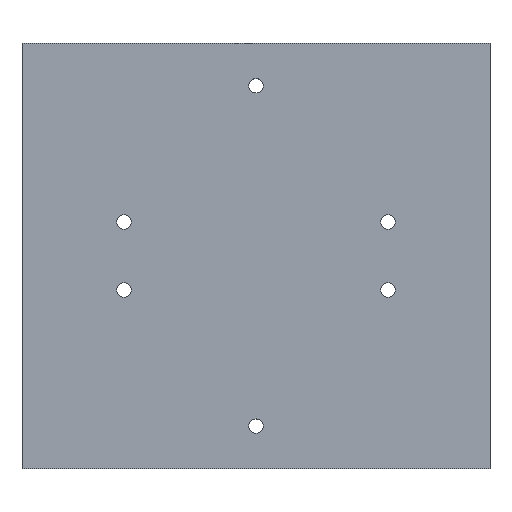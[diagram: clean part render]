
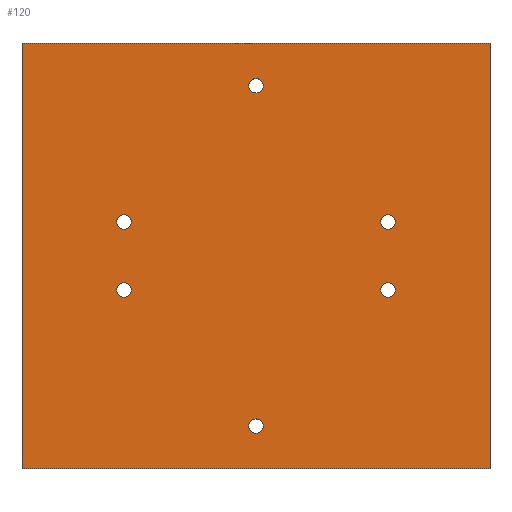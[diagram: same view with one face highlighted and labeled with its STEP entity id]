
A CAD part, top view. The second image highlights one B-rep face of the part: STEP entity #120.
In plain terms, the highlighted planar face has unit normal (0, 0, 1).
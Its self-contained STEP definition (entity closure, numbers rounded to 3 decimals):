
#24 = VERTEX_POINT('',#25);
#25 = CARTESIAN_POINT('',(0.,0.,14.));
#56 = VERTEX_POINT('',#57);
#57 = CARTESIAN_POINT('',(0.,100.,14.));
#63 = EDGE_CURVE('',#24,#56,#64,.T.);
#64 = LINE('',#65,#66);
#65 = CARTESIAN_POINT('',(0.,0.,14.));
#66 = VECTOR('',#67,1.);
#67 = DIRECTION('',(-0.,1.,0.));
#86 = EDGE_CURVE('',#24,#87,#89,.T.);
#87 = VERTEX_POINT('',#88);
#88 = CARTESIAN_POINT('',(110.,0.,14.));
#89 = LINE('',#90,#91);
#90 = CARTESIAN_POINT('',(0.,0.,14.));
#91 = VECTOR('',#92,1.);
#92 = DIRECTION('',(1.,0.,-0.));
#120 = ADVANCED_FACE('',(#121,#139,#150,#161,#172,#183,#194),#205,.T.);
#121 = FACE_BOUND('',#122,.T.);
#122 = EDGE_LOOP('',(#123,#124,#125,#133));
#123 = ORIENTED_EDGE('',*,*,#63,.F.);
#124 = ORIENTED_EDGE('',*,*,#86,.T.);
#125 = ORIENTED_EDGE('',*,*,#126,.T.);
#126 = EDGE_CURVE('',#87,#127,#129,.T.);
#127 = VERTEX_POINT('',#128);
#128 = CARTESIAN_POINT('',(110.,100.,14.));
#129 = LINE('',#130,#131);
#130 = CARTESIAN_POINT('',(110.,0.,14.));
#131 = VECTOR('',#132,1.);
#132 = DIRECTION('',(-0.,1.,0.));
#133 = ORIENTED_EDGE('',*,*,#134,.F.);
#134 = EDGE_CURVE('',#56,#127,#135,.T.);
#135 = LINE('',#136,#137);
#136 = CARTESIAN_POINT('',(0.,100.,14.));
#137 = VECTOR('',#138,1.);
#138 = DIRECTION('',(1.,0.,-0.));
#139 = FACE_BOUND('',#140,.T.);
#140 = EDGE_LOOP('',(#141));
#141 = ORIENTED_EDGE('',*,*,#142,.F.);
#142 = EDGE_CURVE('',#143,#143,#145,.T.);
#143 = VERTEX_POINT('',#144);
#144 = CARTESIAN_POINT('',(25.7,42.,14.));
#145 = CIRCLE('',#146,1.7);
#146 = AXIS2_PLACEMENT_3D('',#147,#148,#149);
#147 = CARTESIAN_POINT('',(24.,42.,14.));
#148 = DIRECTION('',(0.,0.,1.));
#149 = DIRECTION('',(1.,0.,-0.));
#150 = FACE_BOUND('',#151,.T.);
#151 = EDGE_LOOP('',(#152));
#152 = ORIENTED_EDGE('',*,*,#153,.F.);
#153 = EDGE_CURVE('',#154,#154,#156,.T.);
#154 = VERTEX_POINT('',#155);
#155 = CARTESIAN_POINT('',(56.7,10.,14.));
#156 = CIRCLE('',#157,1.7);
#157 = AXIS2_PLACEMENT_3D('',#158,#159,#160);
#158 = CARTESIAN_POINT('',(55.,10.,14.));
#159 = DIRECTION('',(0.,0.,1.));
#160 = DIRECTION('',(1.,0.,-0.));
#161 = FACE_BOUND('',#162,.T.);
#162 = EDGE_LOOP('',(#163));
#163 = ORIENTED_EDGE('',*,*,#164,.F.);
#164 = EDGE_CURVE('',#165,#165,#167,.T.);
#165 = VERTEX_POINT('',#166);
#166 = CARTESIAN_POINT('',(87.7,42.,14.));
#167 = CIRCLE('',#168,1.7);
#168 = AXIS2_PLACEMENT_3D('',#169,#170,#171);
#169 = CARTESIAN_POINT('',(86.,42.,14.));
#170 = DIRECTION('',(0.,0.,1.));
#171 = DIRECTION('',(1.,0.,-0.));
#172 = FACE_BOUND('',#173,.T.);
#173 = EDGE_LOOP('',(#174));
#174 = ORIENTED_EDGE('',*,*,#175,.F.);
#175 = EDGE_CURVE('',#176,#176,#178,.T.);
#176 = VERTEX_POINT('',#177);
#177 = CARTESIAN_POINT('',(25.7,58.,14.));
#178 = CIRCLE('',#179,1.7);
#179 = AXIS2_PLACEMENT_3D('',#180,#181,#182);
#180 = CARTESIAN_POINT('',(24.,58.,14.));
#181 = DIRECTION('',(0.,0.,1.));
#182 = DIRECTION('',(1.,0.,-0.));
#183 = FACE_BOUND('',#184,.T.);
#184 = EDGE_LOOP('',(#185));
#185 = ORIENTED_EDGE('',*,*,#186,.F.);
#186 = EDGE_CURVE('',#187,#187,#189,.T.);
#187 = VERTEX_POINT('',#188);
#188 = CARTESIAN_POINT('',(87.7,58.,14.));
#189 = CIRCLE('',#190,1.7);
#190 = AXIS2_PLACEMENT_3D('',#191,#192,#193);
#191 = CARTESIAN_POINT('',(86.,58.,14.));
#192 = DIRECTION('',(0.,0.,1.));
#193 = DIRECTION('',(1.,0.,-0.));
#194 = FACE_BOUND('',#195,.T.);
#195 = EDGE_LOOP('',(#196));
#196 = ORIENTED_EDGE('',*,*,#197,.F.);
#197 = EDGE_CURVE('',#198,#198,#200,.T.);
#198 = VERTEX_POINT('',#199);
#199 = CARTESIAN_POINT('',(56.7,90.,14.));
#200 = CIRCLE('',#201,1.7);
#201 = AXIS2_PLACEMENT_3D('',#202,#203,#204);
#202 = CARTESIAN_POINT('',(55.,90.,14.));
#203 = DIRECTION('',(0.,0.,1.));
#204 = DIRECTION('',(1.,0.,-0.));
#205 = PLANE('',#206);
#206 = AXIS2_PLACEMENT_3D('',#207,#208,#209);
#207 = CARTESIAN_POINT('',(0.,0.,14.));
#208 = DIRECTION('',(0.,0.,1.));
#209 = DIRECTION('',(1.,0.,-0.));
